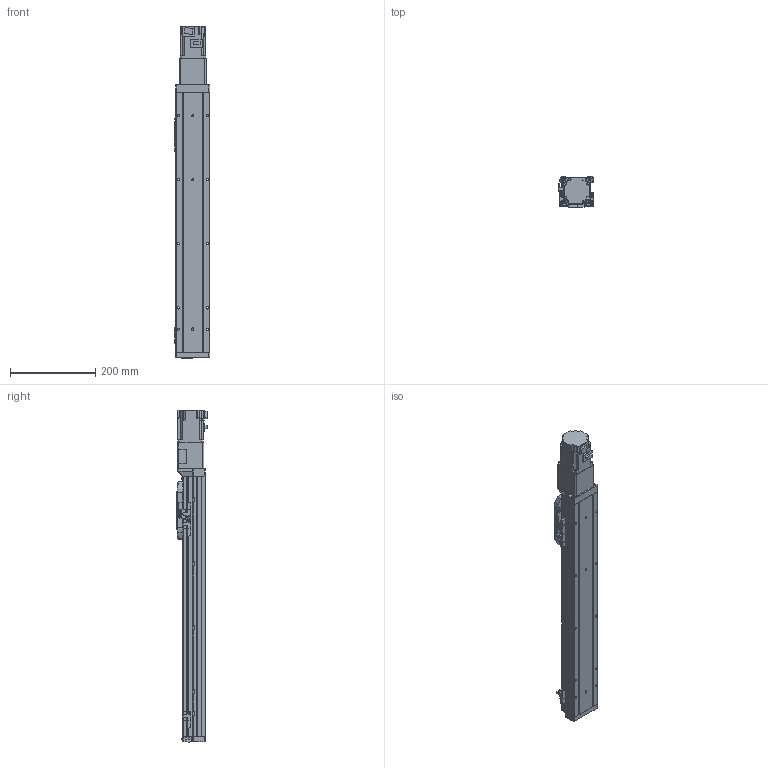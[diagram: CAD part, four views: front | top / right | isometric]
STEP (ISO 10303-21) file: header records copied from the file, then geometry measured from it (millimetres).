
FILE_DESCRIPTION (( 'STEP AP214' ), '1' );
FILE_NAME ('GSH8-450-BC-M20-1.step', '2025-01-07T06:03:42', ( '' ), ( '' ), 'SwSTEP 2.0', 'SolidWorks 2012', '' );
FILE_SCHEMA (( 'AUTOMOTIVE_DESIGN' ));
Length unit declared in the file: millimetre
Products named in the file (4): GSH8-450-BC-M20-1; GSH8-BC-011-450-M20; GSH8-GY-004; HG-KR23_200W_Motor
Assembly tree (3 placements, depth 2):
  GSH8-450-BC-M20-1
    GSH8-BC-011-450-M20
    GSH8-GY-004
    HG-KR23_200W_Motor
Bounding box: 84 x 71.3 x 777.6 mm (x, y, z)
Volume: 1683898.1 mm3; surface area: 431854.1 mm2
Topology: 3 solids, 7 shells, 1120 faces, 2963 edges, 1908 vertices
Faces by surface type: plane 646, cylinder 382, torus 38, cone 26, bspline 24, sphere 4
Entity records: 45225 total; most frequent: CARTESIAN_POINT 11195, DIRECTION 5999, ORIENTED_EDGE 5910, EDGE_CURVE 2955, AXIS2_PLACEMENT_3D 2012, LINE 1975, VECTOR 1975, VERTEX_POINT 1904
